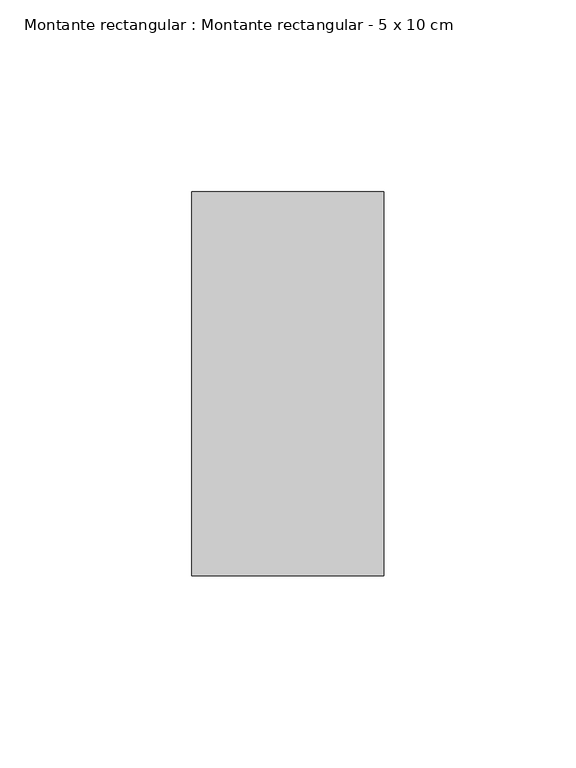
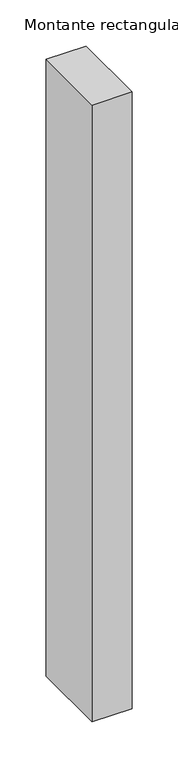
"""IFC4 building model written with IfcOpenShell, lengths in millimetres: member geometry, Montante rectangular : Montante rectangular - 5 x 10 cm."""

from ifc_helpers import new_model, si_unit, frame, origin, place, context, project, spatial, polyline, outline, extrude, source, transform, mapped, element, save


def montante_rectangular_montante_rectangular_5_x_10_cm_31ab8c89(model_context):
    return source(origin(), model_context, "Body", "SweptSolid", [
        extrude(outline(polyline([(25.0, 50.0), (25.0, -50.0), (-25.0, -50.0), (-25.0, 50.0), (25.0, 50.0)])), frame((0.0, 0.0, -816.6666667), z_axis=(0.0, 0.0, 1.0), x_axis=(1.0, 0.0, 0.0)), (0.0, 0.0, 1.0), 816.6666667),
    ])


if __name__ == "__main__":
    model = new_model("IFC4")
    model_context = context("Model", 3, world=origin())
    ifc_project = project(units=[si_unit("LENGTHUNIT", "METRE", prefix="MILLI")], contexts=[model_context])
    site = spatial("IfcSite", under=ifc_project)
    building = spatial("IfcBuilding", under=site)
    placement = place(None, origin())
    montante_rectangular_montante_rectangular_5_x_10_cm_shape = montante_rectangular_montante_rectangular_5_x_10_cm_31ab8c89(model_context)
    element("IfcMember", 1, ObjectType="Montante rectangular : Montante rectangular - 5 x 10 cm", at=placement, inside=building, context=model_context, shape_type="MappedRepresentation", body=[
        mapped(montante_rectangular_montante_rectangular_5_x_10_cm_shape, transform((0.0, 0.0, 0.0), x_axis=(1.0, 0.0, 0.0), y_axis=(0.0, 1.0, 0.0), z_axis=(0.0, 0.0, 1.0))),
    ])
    save(model, "model.ifc")
